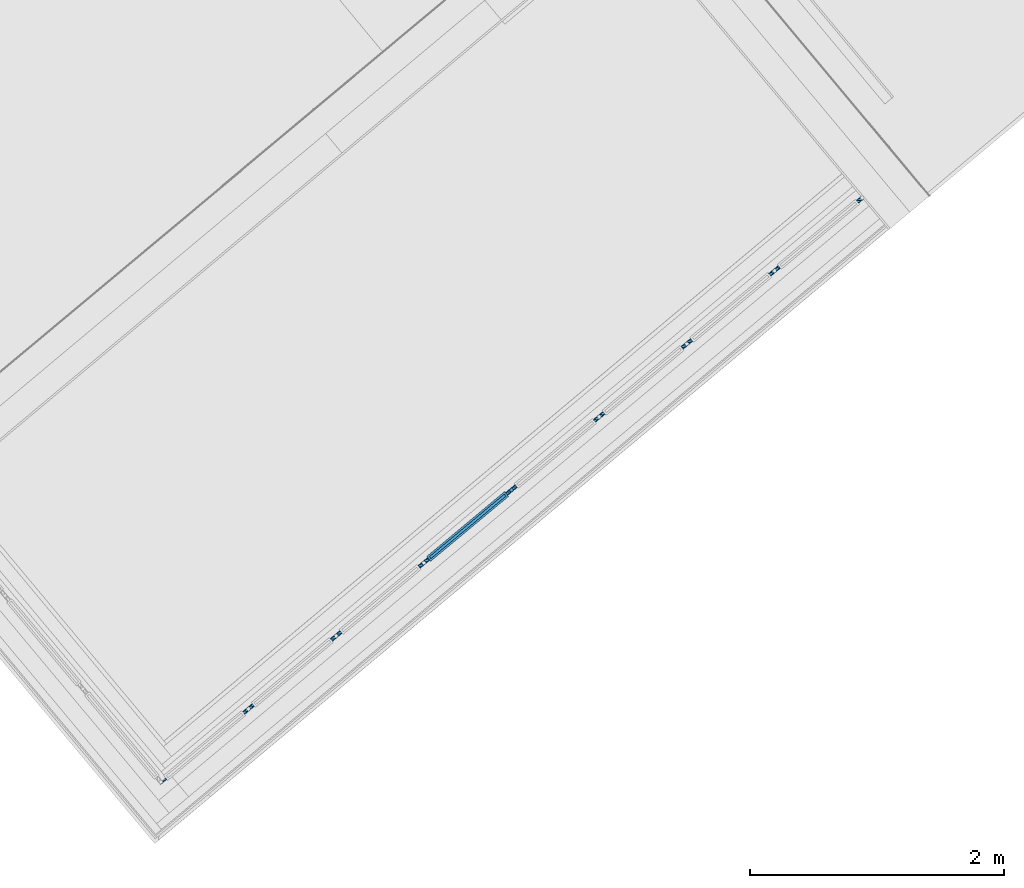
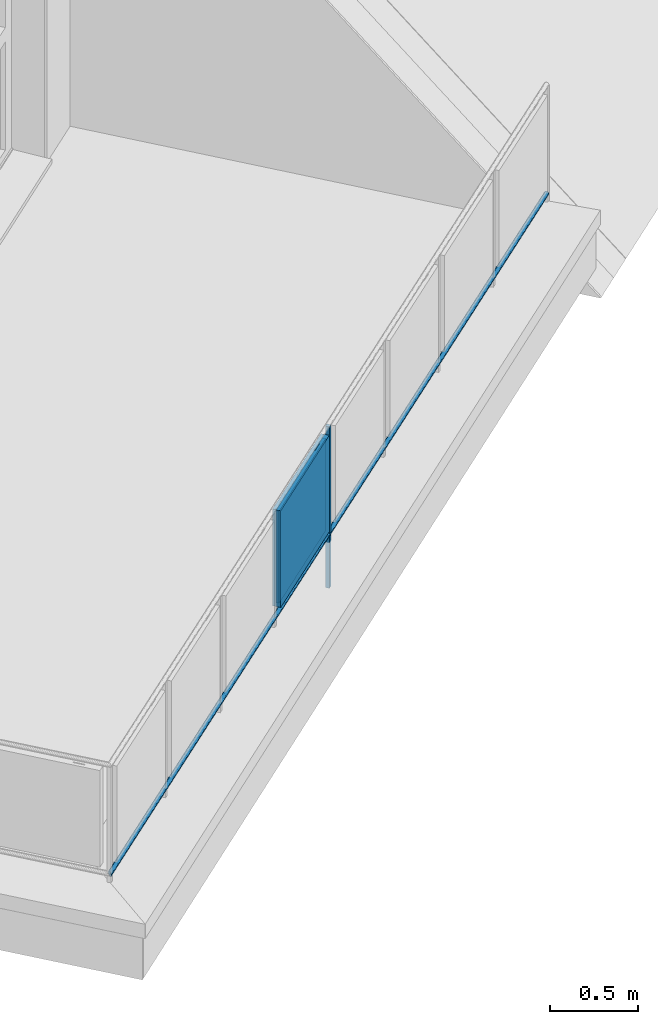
# One storey, part 14 of 47: 4 building element parts, 1 element without a shape of its own.
"""IFC4 building model written with IfcOpenShell, lengths in metres."""

from ifc_helpers import new_model, entity, si_unit, converted_unit, derived_unit, direction, frame, origin_with_axes, place, context, subcontext, project, spatial, polygons, material, type_object, element, aggregate, save


model = new_model("IFC4")

# Units and contexts
model_context = context("Model", 3, precision=1e-05, world=origin_with_axes(), true_north=direction((0.0, 1.0)))
body_context = subcontext(model_context, "Body", "Model", "MODEL_VIEW")
ifc_project = project(units=[si_unit("LENGTHUNIT", "METRE"), si_unit("AREAUNIT", "SQUARE_METRE"), si_unit("VOLUMEUNIT", "CUBIC_METRE"), converted_unit("PLANEANGLEUNIT", "DEGREE", entity("IfcPlaneAngleMeasure", 0.0174532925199), si_unit("PLANEANGLEUNIT", "RADIAN"), dimensions=[0, 0, 0, 0, 0, 0, 0]), converted_unit("TIMEUNIT", "Year", entity("IfcTimeMeasure", 31556926.0), si_unit("TIMEUNIT", "SECOND"), dimensions=[0, 0, 1, 0, 0, 0, 0]), si_unit("MASSUNIT", "GRAM", prefix="KILO"), si_unit("THERMODYNAMICTEMPERATUREUNIT", "DEGREE_CELSIUS"), si_unit("LUMINOUSINTENSITYUNIT", "LUMEN"), si_unit("ENERGYUNIT", "JOULE", prefix="MEGA"), derived_unit("THERMALCONDUCTANCEUNIT", [(si_unit("POWERUNIT", "WATT"), 1), (si_unit("LENGTHUNIT", "METRE"), -1), (si_unit("THERMODYNAMICTEMPERATUREUNIT", "KELVIN"), -1)]), derived_unit("SPECIFICHEATCAPACITYUNIT", [(si_unit("ENERGYUNIT", "JOULE"), 1), (si_unit("MASSUNIT", "GRAM", prefix="KILO"), -1), (si_unit("THERMODYNAMICTEMPERATUREUNIT", "KELVIN"), -1)]), derived_unit("MASSDENSITYUNIT", [(si_unit("MASSUNIT", "GRAM", prefix="KILO"), 1), (si_unit("VOLUMEUNIT", "CUBIC_METRE"), -1)])], contexts=[model_context])

# Site, building, storey
site_placement = place(None, frame((-0.00153261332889, -0.00661245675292, 0.0), z_axis=(0.0, 0.0, 1.0), x_axis=(1.0, 0.0, 0.0)))
site = spatial("IfcSite", under=ifc_project, at=site_placement, Name="Site", CompositionType="ELEMENT")
building_placement = place(site_placement, origin_with_axes())
building = spatial("IfcBuilding", under=site, at=building_placement, Name="Building", CompositionType="ELEMENT")
storey_placement = place(building_placement, frame((0.0, 0.0, 8.66), z_axis=(0.0, 0.0, 1.0), x_axis=(1.0, 0.0, 0.0)))
storey = spatial("IfcBuildingStorey", under=building, at=storey_placement, Name="DG2", CompositionType="ELEMENT", Elevation=8.66)

# Railing, building element parts
railing_type = type_object("IfcRailingType", Name="Geländerart", PredefinedType="NOTDEFINED")
railing_placement = place(storey_placement, frame((-3.01466342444, 12.8116891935, 0.38), z_axis=(0.0, 0.0, 1.0), x_axis=(1.0, 0.0, 0.0)))
railing = element("IfcRailing", 1, at=railing_placement, inside=storey, type_object=railing_type, Name="Geländer - 001", PredefinedType="NOTDEFINED")
ifc_material_1 = material(Name="Aluminium")
building_element_part_1_placement = place(railing_placement, origin_with_axes())
building_element_part_1 = element("IfcBuildingElementPart", 2, at=building_element_part_1_placement, material=ifc_material_1, Name="Aluminium", PredefinedType="NOTDEFINED", context=body_context, shape_type="Tessellation", body=[
    polygons([(1.80279568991, -2.21040989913, 0.07), (1.80276676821, -2.21073055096, 0.072604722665), (7.31327435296, 2.37859456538, 0.072604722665), (7.31312851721, 2.37876967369, 0.07), (1.80276676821, -2.21073055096, 0.067395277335), (1.80268088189, -2.21168276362, 0.0648696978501), (1.80254064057, -2.21323760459, 0.0625), (1.80235030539, -2.21534783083, 0.0603581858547), (1.80211565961, -2.21794932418, 0.0585093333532), (1.80184383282, -2.22096303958, 0.0570096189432), (1.80154308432, -2.22429740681, 0.0559046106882), (1.80122255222, -2.22785111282, 0.0552278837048), (1.80089197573, -2.23151618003, 0.055), (1.80056139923, -2.23518124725, 0.0552278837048), (1.80024086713, -2.23873495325, 0.0559046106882), (1.79994011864, -2.24206932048, 0.0570096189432), (1.79966829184, -2.24508303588, 0.0585093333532), (1.79943364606, -2.24768452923, 0.0603581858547), (1.79924331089, -2.24979475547, 0.0625), (1.79910306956, -2.25134959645, 0.0648696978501), (1.79901718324, -2.2523018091, 0.067395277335), (1.79898826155, -2.25262246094, 0.07), (1.79901718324, -2.2523018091, 0.072604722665), (1.79910306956, -2.25134959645, 0.0751303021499), (1.79924331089, -2.24979475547, 0.0775), (1.79943364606, -2.24768452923, 0.0796418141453), (1.79966829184, -2.24508303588, 0.0814906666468), (1.79994011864, -2.24206932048, 0.0829903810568), (1.80024086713, -2.23873495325, 0.0840953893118), (1.80056139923, -2.23518124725, 0.0847721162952), (1.80089197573, -2.23151618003, 0.085), (1.80122255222, -2.22785111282, 0.0847721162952), (1.80154308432, -2.22429740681, 0.0840953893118), (1.80184383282, -2.22096303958, 0.0829903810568), (1.80211565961, -2.21794932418, 0.0814906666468), (1.80235030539, -2.21534783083, 0.0796418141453), (1.80254064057, -2.21323760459, 0.0775), (1.80268088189, -2.21168276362, 0.0751303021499), (7.31370742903, 2.37807456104, 0.0751303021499), (7.31441458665, 2.37722546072, 0.0775), (7.31537433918, 2.37607306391, 0.0796418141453), (7.31655752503, 2.37465238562, 0.0814906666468), (7.31792819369, 2.37300659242, 0.0829903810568), (7.31944469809, 2.37118569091, 0.0840953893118), (7.32106096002, 2.36924500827, 0.0847721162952), (7.32272787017, 2.36724351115, 0.085), (7.32439478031, 2.36524201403, 0.0847721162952), (7.32601104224, 2.36330133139, 0.0840953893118), (7.32752754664, 2.36148042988, 0.0829903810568), (7.3288982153, 2.35983463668, 0.0814906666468), (7.33008140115, 2.35841395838, 0.0796418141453), (7.33104115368, 2.35726156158, 0.0775), (7.3317483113, 2.35641246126, 0.0751303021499), (7.33218138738, 2.35589245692, 0.072604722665), (7.33232722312, 2.35571734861, 0.07), (7.33218138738, 2.35589245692, 0.067395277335), (7.3317483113, 2.35641246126, 0.0648696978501), (7.33104115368, 2.35726156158, 0.0625), (7.33008140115, 2.35841395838, 0.0603581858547), (7.3288982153, 2.35983463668, 0.0585093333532), (7.32752754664, 2.36148042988, 0.0570096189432), (7.32601104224, 2.36330133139, 0.0559046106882), (7.32439478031, 2.36524201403, 0.0552278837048), (7.32272787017, 2.36724351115, 0.055), (7.32106096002, 2.36924500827, 0.0552278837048), (7.31944469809, 2.37118569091, 0.0559046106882), (7.31792819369, 2.37300659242, 0.0570096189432), (7.31655752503, 2.37465238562, 0.0585093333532), (7.31537433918, 2.37607306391, 0.0603581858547), (7.31441458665, 2.37722546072, 0.0625), (7.31370742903, 2.37807456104, 0.0648696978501), (7.31327435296, 2.37859456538, 0.067395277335)], [[[1, 2, 3, 4]], [[1, 5, 6, 7, 8, 9, 10, 11, 12, 13, 14, 15, 16, 17, 18, 19, 20, 21, 22, 23, 24, 25, 26, 27, 28, 29, 30, 31, 32, 33, 34, 35, 36, 37, 38, 2]], [[2, 38, 39, 3]], [[4, 3, 39, 40, 41, 42, 43, 44, 45, 46, 47, 48, 49, 50, 51, 52, 53, 54, 55, 56, 57, 58, 59, 60, 61, 62, 63, 64, 65, 66, 67, 68, 69, 70, 71, 72]], [[5, 1, 4, 72]], [[6, 5, 72, 71]], [[7, 6, 71, 70]], [[8, 7, 70, 69]], [[9, 8, 69, 68]], [[10, 9, 68, 67]], [[11, 10, 67, 66]], [[12, 11, 66, 65]], [[13, 12, 65, 64]], [[14, 13, 64, 63]], [[15, 14, 63, 62]], [[16, 15, 62, 61]], [[17, 16, 61, 60]], [[18, 17, 60, 59]], [[19, 18, 59, 58]], [[20, 19, 58, 57]], [[21, 20, 57, 56]], [[22, 21, 56, 55]], [[23, 22, 55, 54]], [[24, 23, 54, 53]], [[25, 24, 53, 52]], [[26, 25, 52, 51]], [[27, 26, 51, 50]], [[28, 27, 50, 49]], [[29, 28, 49, 48]], [[30, 29, 48, 47]], [[31, 30, 47, 46]], [[32, 31, 46, 45]], [[33, 32, 45, 44]], [[34, 33, 44, 43]], [[35, 34, 43, 42]], [[36, 35, 42, 41]], [[37, 36, 41, 40]], [[38, 37, 40, 39]]], closed=True),
])
ifc_material_2 = material(Name="Profilit")
building_element_part_2_placement = place(railing_placement, origin_with_axes())
building_element_part_2 = element("IfcBuildingElementPart", 3, at=building_element_part_2_placement, material=ifc_material_2, Name="Profilit", PredefinedType="NOTDEFINED", context=body_context, shape_type="Tessellation", body=[
    polygons([(4.50546364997, 0.0339505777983, 0.135), (3.91512757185, -0.457699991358, 0.135), (3.91512757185, -0.457699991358, 0.775), (4.50546364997, 0.0339505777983, 0.775), (3.92792670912, -0.473068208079, 0.135), (4.51826278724, 0.0185823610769, 0.135), (3.92792670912, -0.473068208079, 0.775), (4.51826278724, 0.0185823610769, 0.775)], [[[1, 2, 3, 4]], [[5, 2, 1, 6]], [[7, 3, 2, 5]], [[4, 3, 7, 8]], [[1, 4, 8, 6]], [[7, 5, 6, 8]]], closed=True),
])
building_element_part_3_placement = place(railing_placement, origin_with_axes())
building_element_part_3 = element("IfcBuildingElementPart", 4, at=building_element_part_3_placement, material=ifc_material_1, Name="Aluminium", PredefinedType="NOTDEFINED", context=body_context, shape_type="Tessellation", body=[
    polygons([(3.98524216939, -0.40906673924, 0.12), (4.03903092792, -0.364269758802, 0.12), (4.03903092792, -0.364269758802, 0.095), (3.98524216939, -0.40906673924, 0.095), (3.98844195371, -0.41290879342, 0.12), (4.04223071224, -0.368111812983, 0.12), (4.04223071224, -0.368111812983, 0.095), (3.98844195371, -0.41290879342, 0.095)], [[[1, 2, 3, 4]], [[5, 6, 2, 1]], [[2, 6, 7, 3]], [[4, 3, 7, 8]], [[1, 4, 8, 5]], [[8, 7, 6, 5]]], closed=True),
    polygons([(4.44494840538, -0.0262088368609, 0.79), (4.39115964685, -0.0710058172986, 0.79), (4.39115964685, -0.0710058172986, 0.795), (4.44494840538, -0.0262088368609, 0.795), (4.44814818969, -0.0300508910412, 0.79), (4.39435943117, -0.074847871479, 0.79), (4.39435943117, -0.074847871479, 0.795), (4.44814818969, -0.0300508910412, 0.795)], [[[1, 2, 3, 4]], [[5, 6, 2, 1]], [[2, 6, 7, 3]], [[4, 3, 7, 8]], [[1, 4, 8, 5]], [[8, 7, 6, 5]]], closed=True),
    polygons([(3.92599989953, -0.494193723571, 0.12), (3.89400205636, -0.455773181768, 0.12), (4.50739045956, 0.0550760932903, 0.12), (4.53938830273, 0.0166555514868, 0.12), (3.94136811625, -0.481394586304, 0.14), (3.9317687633, -0.469868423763, 0.14), (3.92792670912, -0.473068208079, 0.135), (3.91512757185, -0.457699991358, 0.135), (3.91896962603, -0.454500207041, 0.14), (3.90937027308, -0.4429740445, 0.14), (4.49202224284, 0.0422769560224, 0.14), (4.49202224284, 0.0422769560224, 0.77), (3.90937027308, -0.4429740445, 0.77), (3.90937027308, -0.4429740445, 0.14), (3.89400205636, -0.455773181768, 0.12), (3.89400205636, -0.455773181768, 0.79), (4.50739045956, 0.0550760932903, 0.79), (4.53938830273, 0.0166555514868, 0.79), (3.92599989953, -0.494193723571, 0.79), (3.92599989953, -0.494193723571, 0.12), (3.94136811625, -0.481394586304, 0.14), (3.94136811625, -0.481394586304, 0.77), (4.52402008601, 0.00385641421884, 0.77), (4.52402008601, 0.00385641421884, 0.14), (4.51442073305, 0.0153825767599, 0.14), (4.51442073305, 0.0153825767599, 0.77), (3.9317687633, -0.469868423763, 0.77), (3.9317687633, -0.469868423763, 0.14), (3.92792670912, -0.473068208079, 0.135), (3.92792670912, -0.473068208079, 0.775), (4.51826278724, 0.0185823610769, 0.775), (4.51826278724, 0.0185823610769, 0.135), (4.50546364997, 0.0339505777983, 0.135), (4.50546364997, 0.0339505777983, 0.775), (3.91512757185, -0.457699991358, 0.775), (3.91512757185, -0.457699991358, 0.135), (3.91896962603, -0.454500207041, 0.14), (3.91896962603, -0.454500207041, 0.77), (4.50162159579, 0.0307507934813, 0.77), (4.50162159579, 0.0307507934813, 0.14)], [[[1, 2, 3, 4]], [[1, 5, 6, 7, 8, 9, 10, 2]], [[2, 10, 11, 12, 13, 14, 15, 16, 17, 3]], [[4, 3, 17, 18]], [[5, 1, 4, 18, 19, 20, 21, 22, 23, 24]], [[6, 5, 24, 25]], [[7, 6, 25, 26, 27, 28, 29, 30, 31, 32]], [[8, 7, 32, 33]], [[9, 8, 33, 34, 35, 36, 37, 38, 39, 40]], [[10, 9, 40, 11]], [[11, 40, 39, 12]], [[12, 39, 38, 13]], [[13, 38, 37, 14]], [[20, 15, 14, 37, 36, 29, 28, 21]], [[19, 16, 15, 20]], [[18, 17, 16, 19]], [[27, 22, 21, 28]], [[26, 23, 22, 27]], [[25, 24, 23, 26]], [[35, 30, 29, 36]], [[34, 31, 30, 35]], [[33, 32, 31, 34]]], closed=True),
])
building_element_part_4_placement = place(railing_placement, origin_with_axes())
building_element_part_4 = element("IfcBuildingElementPart", 5, at=building_element_part_4_placement, material=ifc_material_1, Name="Aluminium", PredefinedType="NOTDEFINED", context=body_context, shape_type="Tessellation", body=[
    polygons([(4.57941451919, 0.0662579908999, -0.3), (4.5634155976, 0.0854682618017, -0.3), (4.5634155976, 0.0854682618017, 0.82), (4.57941451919, 0.0662579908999, 0.82), (4.56020424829, 0.050259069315, -0.3), (4.5442053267, 0.0694693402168, -0.3), (4.5442053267, 0.0694693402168, 0.82), (4.56020424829, 0.050259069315, 0.82)], [[[1, 2, 3, 4]], [[1, 5, 6, 2]], [[2, 6, 7, 3]], [[4, 3, 7, 8]], [[5, 1, 4, 8]], [[6, 5, 8, 7]]], closed=True),
])
aggregate(railing, [building_element_part_1, building_element_part_2, building_element_part_3, building_element_part_4])

save(model, "model.ifc")
